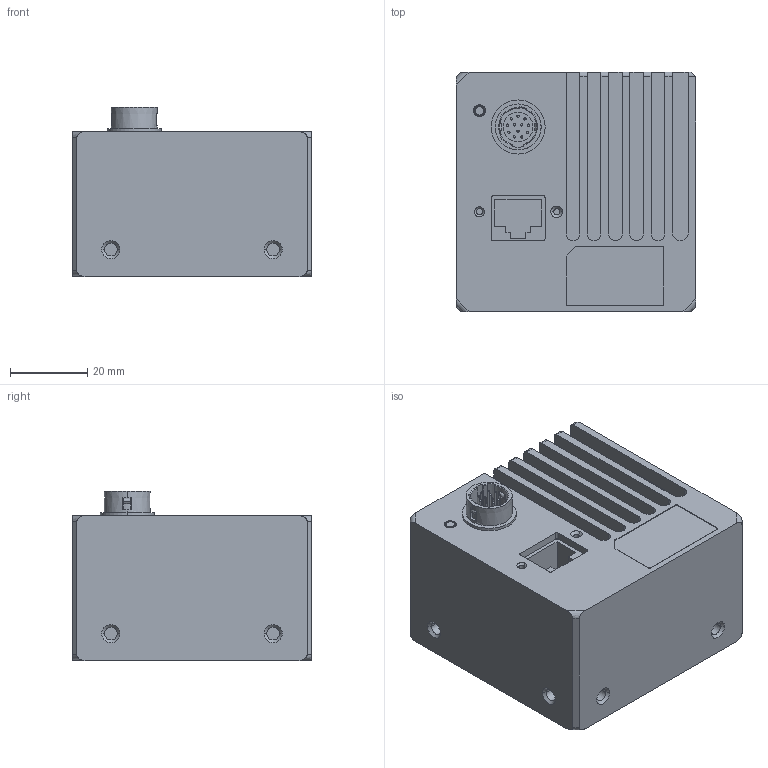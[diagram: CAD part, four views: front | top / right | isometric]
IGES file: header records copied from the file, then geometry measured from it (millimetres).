
Start section:  PTC IGES file: line-camera_3d.igs
Global section: file name: line-camera_3d.igs; native system: Creo Parametric by Parametric Technology Corporation; preprocessor: 2013410; author: wanggangqiang; organization: Unknown; date: 20160203.104902; units: millimetre
Bounding box: 62 x 62 x 43.8 mm (x, y, z)
Volume: 129198.6 mm3; surface area: 21891.8 mm2
Topology: 1 solids, 1 shells, 275 faces, 768 edges, 528 vertices
Faces by surface type: revolution 151, bspline 124
